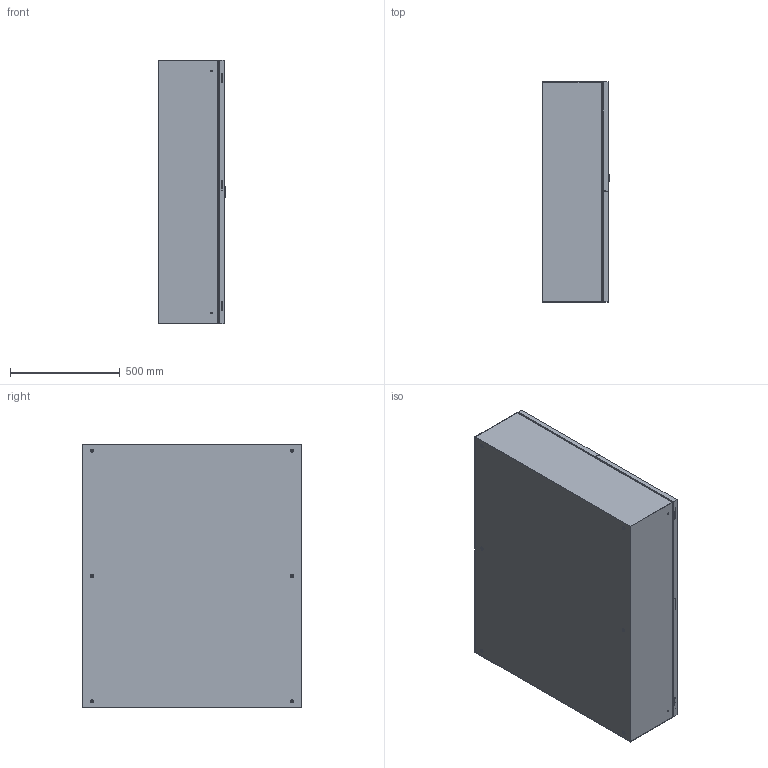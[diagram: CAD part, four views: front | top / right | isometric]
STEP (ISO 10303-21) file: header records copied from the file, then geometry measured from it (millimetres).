
FILE_DESCRIPTION(/* description */ ('Unknown'),/* implementation_level */ '2;1');
FILE_NAME(/* name */ 'CCA10012030',/* time_stamp */ '2024-08-02T12:04:42+02:00',/* author */ ('Unknown'),/* organization */ ('Unknown'),/* preprocessor_version */ 'ST-DEVELOPER v19.4',/* originating_system */ 'Solid Edge',/* authorisation */ 'Unknown');
FILE_SCHEMA (('AUTOMOTIVE_DESIGN {1 0 10303 214 3 1 1}'));
Length unit declared in the file: millimetre
Products named in the file (35): CCA10012030; C000X000.91; C000X000.92; C0000000.83; C0000000.02; AE00198.02; AE00417.01; AE00992.21; AE00415.02; AE00320.01; AE00992.15; AE00413.05; AE00992.70 ; AE00992.18; AE00315.01; C000X000.90_oa_0; C0000000.48; C0000000.04; C0000000.05; AE00316.01; AE00601.01; AE00891.02; C0000000.01; AE00121.01; C0000000.06; C0000001.23; C0000000.06_GOMMA; AE00906.05_oa_1; C000X000.93_oa_2; C000X000.94_oa_3; C0000000.84; AE00992.22; AE00992.27; AE00992.14; AE00989.13
Assembly tree (118 placements, depth 4):
  CCA10012030
    C000X000.91
      C000X000.92
        C0000000.83
      C0000000.02  x3
      AE00198.02  x3
      AE00417.01  x2
      AE00992.21
      AE00415.02  x2
      AE00320.01  x2
      AE00992.15
      AE00413.05  x4
      AE00992.70   x2
      AE00992.18  x4
      AE00315.01  x4
    AE00198.02  x6
    C000X000.90_oa_0
      C0000000.48
      C0000000.04  x6
      C0000000.05  x6
      AE00316.01  x6
      AE00601.01  x6
      AE00891.02  x6
      C0000000.01  x6
      AE00417.01  x4
      AE00121.01  x4
      C0000000.06  x2
        C0000001.23
        C0000000.06_GOMMA
      AE00906.05_oa_1
    C000X000.93_oa_2
      C000X000.94_oa_3
        C0000000.84
      C0000000.02  x3
      AE00198.02  x3
      AE00992.21
      AE00417.01  x2
      AE00992.22
      AE00992.27
      AE00992.14
      AE00989.13
      AE00413.05  x4
      AE00992.18  x4
      AE00315.01  x4
      AE00992.70   x2
Bounding box: 309 x 1000 x 1200 mm (x, y, z)
Volume: 9730770.5 mm3; surface area: 7874178.6 mm2
Topology: 125 solids, 125 shells, 1590 faces, 3606 edges, 2363 vertices
Faces by surface type: plane 1030, cylinder 334, cone 144, torus 72, bspline 6, sphere 4
Full cylindrical faces by diameter (mm): 2.6 x4, 2.7 x4, 3.2 x2, 4 x13, 4.134 x8, 4.2 x12, 4.8 x4, 4.917 x8, 4.918 x6, 5 x12, 5.4 x6, 5.5 x2, 6 x40, 6.2 x1, 6.4 x6, 6.5 x8, 6.8 x2, 7.5 x12, 8 x10, 8.376 x12, 10 x7, 10.25 x6, 10.5 x12, 11 x6, 14 x1, 15 x15, 16 x1, 19.5 x1, 20 x1, 23 x2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
Entity records: 19583 total; most frequent: CARTESIAN_POINT 3270, DIRECTION 2984, ORIENTED_EDGE 2582, EDGE_CURVE 1291, AXIS2_PLACEMENT_3D 1059, VERTEX_POINT 901, LINE 866, VECTOR 866
